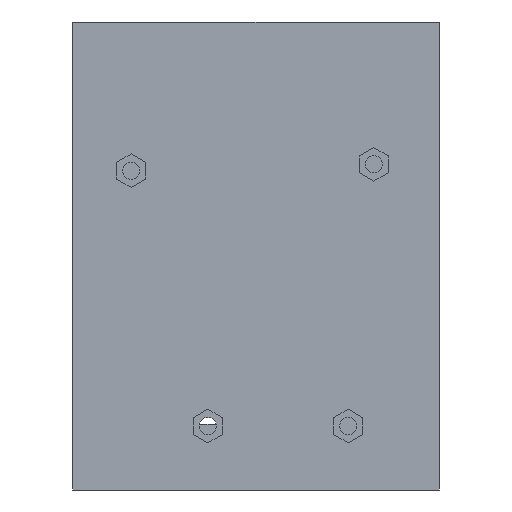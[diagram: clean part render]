
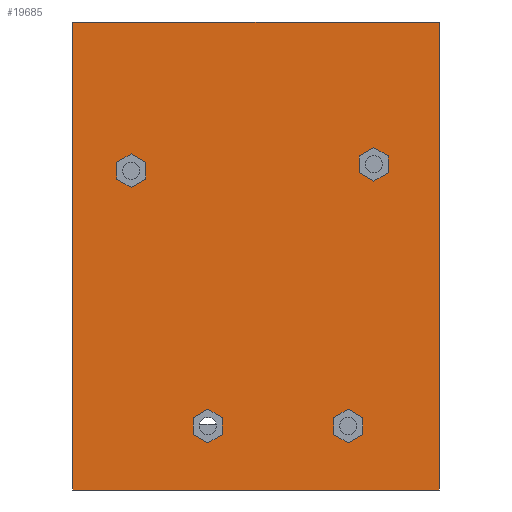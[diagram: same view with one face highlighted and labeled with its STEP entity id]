
A CAD part, front view. The second image highlights one B-rep face of the part: STEP entity #19685.
In plain terms, the highlighted planar face has unit normal (0, -1, 0).
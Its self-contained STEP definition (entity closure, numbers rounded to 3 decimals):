
#699=FACE_BOUND('',#3820,.T.);
#700=FACE_BOUND('',#3821,.T.);
#701=FACE_BOUND('',#3822,.T.);
#702=FACE_BOUND('',#3823,.T.);
#2159=PLANE('',#20747);
#2700=FACE_OUTER_BOUND('',#3819,.T.);
#3819=EDGE_LOOP('',(#14509,#14510,#14511,#14512));
#3820=EDGE_LOOP('',(#14513,#14514,#14515,#14516,#14517,#14518));
#3821=EDGE_LOOP('',(#14519,#14520,#14521,#14522,#14523,#14524));
#3822=EDGE_LOOP('',(#14525,#14526,#14527,#14528,#14529,#14530));
#3823=EDGE_LOOP('',(#14531,#14532,#14533,#14534,#14535,#14536));
#4876=LINE('',#24615,#6607);
#4881=LINE('',#24624,#6612);
#5080=LINE('',#26553,#6811);
#5081=LINE('',#26557,#6812);
#5085=LINE('',#26565,#6816);
#5088=LINE('',#26571,#6819);
#5091=LINE('',#26577,#6822);
#5094=LINE('',#26583,#6825);
#5097=LINE('',#26588,#6828);
#5099=LINE('',#26596,#6830);
#5103=LINE('',#26604,#6834);
#5106=LINE('',#26610,#6837);
#5109=LINE('',#26616,#6840);
#5112=LINE('',#26622,#6843);
#5115=LINE('',#26627,#6846);
#5117=LINE('',#26635,#6848);
#5121=LINE('',#26643,#6852);
#5124=LINE('',#26649,#6855);
#5127=LINE('',#26655,#6858);
#5130=LINE('',#26661,#6861);
#5133=LINE('',#26666,#6864);
#5140=LINE('',#26690,#6871);
#5144=LINE('',#26697,#6875);
#5147=LINE('',#26703,#6878);
#5150=LINE('',#26709,#6881);
#5153=LINE('',#26715,#6884);
#5155=LINE('',#26718,#6886);
#5158=LINE('',#26729,#6889);
#6607=VECTOR('',#21290,10.);
#6612=VECTOR('',#21297,1000.);
#6811=VECTOR('',#21622,1000.);
#6812=VECTOR('',#21625,10.);
#6816=VECTOR('',#21631,10.);
#6819=VECTOR('',#21636,10.);
#6822=VECTOR('',#21641,10.);
#6825=VECTOR('',#21646,10.);
#6828=VECTOR('',#21651,10.);
#6830=VECTOR('',#21659,10.);
#6834=VECTOR('',#21665,10.);
#6837=VECTOR('',#21670,10.);
#6840=VECTOR('',#21675,10.);
#6843=VECTOR('',#21680,10.);
#6846=VECTOR('',#21685,10.);
#6848=VECTOR('',#21693,10.);
#6852=VECTOR('',#21699,10.);
#6855=VECTOR('',#21704,10.);
#6858=VECTOR('',#21709,10.);
#6861=VECTOR('',#21714,10.);
#6864=VECTOR('',#21719,10.);
#6871=VECTOR('',#21744,10.);
#6875=VECTOR('',#21750,10.);
#6878=VECTOR('',#21755,10.);
#6881=VECTOR('',#21760,10.);
#6884=VECTOR('',#21765,10.);
#6886=VECTOR('',#21769,10.);
#6889=VECTOR('',#21784,10.);
#8460=VERTEX_POINT('',#24612);
#8461=VERTEX_POINT('',#24614);
#8464=VERTEX_POINT('',#24622);
#8608=VERTEX_POINT('',#26551);
#8609=VERTEX_POINT('',#26555);
#8610=VERTEX_POINT('',#26556);
#8613=VERTEX_POINT('',#26564);
#8615=VERTEX_POINT('',#26570);
#8617=VERTEX_POINT('',#26576);
#8619=VERTEX_POINT('',#26582);
#8622=VERTEX_POINT('',#26594);
#8623=VERTEX_POINT('',#26595);
#8626=VERTEX_POINT('',#26603);
#8628=VERTEX_POINT('',#26609);
#8630=VERTEX_POINT('',#26615);
#8632=VERTEX_POINT('',#26621);
#8635=VERTEX_POINT('',#26633);
#8636=VERTEX_POINT('',#26634);
#8639=VERTEX_POINT('',#26642);
#8641=VERTEX_POINT('',#26648);
#8643=VERTEX_POINT('',#26654);
#8645=VERTEX_POINT('',#26660);
#8653=VERTEX_POINT('',#26687);
#8654=VERTEX_POINT('',#26689);
#8656=VERTEX_POINT('',#26695);
#8658=VERTEX_POINT('',#26701);
#8660=VERTEX_POINT('',#26707);
#8662=VERTEX_POINT('',#26713);
#10516=EDGE_CURVE('',#8460,#8461,#4876,.T.);
#10521=EDGE_CURVE('',#8460,#8464,#4881,.T.);
#10810=EDGE_CURVE('',#8464,#8608,#5080,.T.);
#10811=EDGE_CURVE('',#8609,#8610,#5081,.T.);
#10815=EDGE_CURVE('',#8613,#8609,#5085,.T.);
#10818=EDGE_CURVE('',#8615,#8613,#5088,.T.);
#10821=EDGE_CURVE('',#8617,#8615,#5091,.T.);
#10824=EDGE_CURVE('',#8619,#8617,#5094,.T.);
#10827=EDGE_CURVE('',#8610,#8619,#5097,.T.);
#10830=EDGE_CURVE('',#8622,#8623,#5099,.T.);
#10834=EDGE_CURVE('',#8626,#8622,#5103,.T.);
#10837=EDGE_CURVE('',#8628,#8626,#5106,.T.);
#10840=EDGE_CURVE('',#8630,#8628,#5109,.T.);
#10843=EDGE_CURVE('',#8632,#8630,#5112,.T.);
#10846=EDGE_CURVE('',#8623,#8632,#5115,.T.);
#10849=EDGE_CURVE('',#8635,#8636,#5117,.T.);
#10853=EDGE_CURVE('',#8639,#8635,#5121,.T.);
#10856=EDGE_CURVE('',#8641,#8639,#5124,.T.);
#10859=EDGE_CURVE('',#8643,#8641,#5127,.T.);
#10862=EDGE_CURVE('',#8645,#8643,#5130,.T.);
#10865=EDGE_CURVE('',#8636,#8645,#5133,.T.);
#10876=EDGE_CURVE('',#8654,#8653,#5140,.T.);
#10880=EDGE_CURVE('',#8653,#8656,#5144,.T.);
#10883=EDGE_CURVE('',#8656,#8658,#5147,.T.);
#10886=EDGE_CURVE('',#8658,#8660,#5150,.T.);
#10889=EDGE_CURVE('',#8660,#8662,#5153,.T.);
#10891=EDGE_CURVE('',#8662,#8654,#5155,.T.);
#10896=EDGE_CURVE('',#8608,#8461,#5158,.T.);
#14509=ORIENTED_EDGE('',*,*,#10521,.T.);
#14510=ORIENTED_EDGE('',*,*,#10810,.T.);
#14511=ORIENTED_EDGE('',*,*,#10896,.T.);
#14512=ORIENTED_EDGE('',*,*,#10516,.F.);
#14513=ORIENTED_EDGE('',*,*,#10811,.T.);
#14514=ORIENTED_EDGE('',*,*,#10827,.T.);
#14515=ORIENTED_EDGE('',*,*,#10824,.T.);
#14516=ORIENTED_EDGE('',*,*,#10821,.T.);
#14517=ORIENTED_EDGE('',*,*,#10818,.T.);
#14518=ORIENTED_EDGE('',*,*,#10815,.T.);
#14519=ORIENTED_EDGE('',*,*,#10830,.T.);
#14520=ORIENTED_EDGE('',*,*,#10846,.T.);
#14521=ORIENTED_EDGE('',*,*,#10843,.T.);
#14522=ORIENTED_EDGE('',*,*,#10840,.T.);
#14523=ORIENTED_EDGE('',*,*,#10837,.T.);
#14524=ORIENTED_EDGE('',*,*,#10834,.T.);
#14525=ORIENTED_EDGE('',*,*,#10849,.T.);
#14526=ORIENTED_EDGE('',*,*,#10865,.T.);
#14527=ORIENTED_EDGE('',*,*,#10862,.T.);
#14528=ORIENTED_EDGE('',*,*,#10859,.T.);
#14529=ORIENTED_EDGE('',*,*,#10856,.T.);
#14530=ORIENTED_EDGE('',*,*,#10853,.T.);
#14531=ORIENTED_EDGE('',*,*,#10880,.T.);
#14532=ORIENTED_EDGE('',*,*,#10883,.T.);
#14533=ORIENTED_EDGE('',*,*,#10886,.T.);
#14534=ORIENTED_EDGE('',*,*,#10889,.T.);
#14535=ORIENTED_EDGE('',*,*,#10891,.T.);
#14536=ORIENTED_EDGE('',*,*,#10876,.T.);
#19685=ADVANCED_FACE('',(#2700,#699,#700,#701,#702),#2159,.T.);
#20747=AXIS2_PLACEMENT_3D('',#26730,#21785,#21786);
#21290=DIRECTION('',(1.,0.,0.));
#21297=DIRECTION('',(0.,0.,-1.));
#21622=DIRECTION('',(1.,0.,0.));
#21625=DIRECTION('',(0.,0.,-1.));
#21631=DIRECTION('',(0.866,0.,-0.5));
#21636=DIRECTION('',(0.866,0.,0.5));
#21641=DIRECTION('',(0.,0.,1.));
#21646=DIRECTION('',(-0.866,0.,0.5));
#21651=DIRECTION('',(-0.866,0.,-0.5));
#21659=DIRECTION('',(-0.866,0.,0.5));
#21665=DIRECTION('',(-0.866,0.,-0.5));
#21670=DIRECTION('',(0.,0.,-1.));
#21675=DIRECTION('',(0.866,0.,-0.5));
#21680=DIRECTION('',(0.866,0.,0.5));
#21685=DIRECTION('',(0.,0.,1.));
#21693=DIRECTION('',(0.866,0.,0.5));
#21699=DIRECTION('',(0.,0.,1.));
#21704=DIRECTION('',(-0.866,0.,0.5));
#21709=DIRECTION('',(-0.866,0.,-0.5));
#21714=DIRECTION('',(0.,0.,-1.));
#21719=DIRECTION('',(0.866,0.,-0.5));
#21744=DIRECTION('',(-0.865,0.,-0.502));
#21750=DIRECTION('',(-0.867,0.,0.498));
#21755=DIRECTION('',(-0.002,0.,1.));
#21760=DIRECTION('',(0.865,0.,0.502));
#21765=DIRECTION('',(0.867,0.,-0.498));
#21769=DIRECTION('',(0.002,0.,-1.));
#21784=DIRECTION('',(0.,0.,1.));
#21785=DIRECTION('center_axis',(0.,-1.,0.));
#21786=DIRECTION('ref_axis',(1.,0.,0.));
#24612=CARTESIAN_POINT('',(-62.38,-15.85,8.));
#24614=CARTESIAN_POINT('',(10.445,-15.85,8.));
#24615=CARTESIAN_POINT('',(0.,-15.85,8.));
#24622=CARTESIAN_POINT('',(-62.38,-15.85,-85.12));
#24624=CARTESIAN_POINT('',(-62.38,-15.85,0.));
#26551=CARTESIAN_POINT('',(10.445,-15.85,-85.12));
#26553=CARTESIAN_POINT('',(0.,-15.85,-85.12));
#26555=CARTESIAN_POINT('',(-4.72,-15.85,-70.716));
#26556=CARTESIAN_POINT('',(-4.72,-15.85,-74.064));
#26557=CARTESIAN_POINT('',(-4.72,-15.85,-35.358));
#26564=CARTESIAN_POINT('',(-7.62,-15.85,-69.041));
#26565=CARTESIAN_POINT('',(-19.71,-15.85,-62.061));
#26570=CARTESIAN_POINT('',(-10.52,-15.85,-70.716));
#26571=CARTESIAN_POINT('',(8.735,-15.85,-59.599));
#26576=CARTESIAN_POINT('',(-10.52,-15.85,-74.064));
#26577=CARTESIAN_POINT('',(-10.52,-15.85,-37.032));
#26582=CARTESIAN_POINT('',(-7.62,-15.85,-75.739));
#26583=CARTESIAN_POINT('',(-21.16,-15.85,-67.921));
#26588=CARTESIAN_POINT('',(13.085,-15.85,-63.784));
#26594=CARTESIAN_POINT('',(-35.56,-15.85,-75.739));
#26595=CARTESIAN_POINT('',(-38.46,-15.85,-74.064));
#26596=CARTESIAN_POINT('',(-38.623,-15.85,-73.97));
#26603=CARTESIAN_POINT('',(-32.66,-15.85,-74.064));
#26604=CARTESIAN_POINT('',(-4.377,-15.85,-57.735));
#26609=CARTESIAN_POINT('',(-32.66,-15.85,-70.716));
#26610=CARTESIAN_POINT('',(-32.66,-15.85,-35.358));
#26615=CARTESIAN_POINT('',(-35.56,-15.85,-69.041));
#26616=CARTESIAN_POINT('',(-37.173,-15.85,-68.11));
#26621=CARTESIAN_POINT('',(-38.46,-15.85,-70.716));
#26622=CARTESIAN_POINT('',(-8.727,-15.85,-53.549));
#26627=CARTESIAN_POINT('',(-38.46,-15.85,-37.032));
#26633=CARTESIAN_POINT('',(-53.7,-15.85,-19.916));
#26634=CARTESIAN_POINT('',(-50.8,-15.85,-18.241));
#26635=CARTESIAN_POINT('',(-29.251,-15.85,-5.8));
#26642=CARTESIAN_POINT('',(-53.7,-15.85,-23.264));
#26643=CARTESIAN_POINT('',(-53.7,-15.85,-11.632));
#26648=CARTESIAN_POINT('',(-50.8,-15.85,-24.939));
#26649=CARTESIAN_POINT('',(-37.149,-15.85,-32.82));
#26654=CARTESIAN_POINT('',(-47.9,-15.85,-23.264));
#26655=CARTESIAN_POINT('',(-24.901,-15.85,-9.986));
#26660=CARTESIAN_POINT('',(-47.9,-15.85,-19.916));
#26661=CARTESIAN_POINT('',(-47.9,-15.85,-9.958));
#26666=CARTESIAN_POINT('',(-35.699,-15.85,-26.96));
#26687=CARTESIAN_POINT('',(-2.532,-15.85,-23.668));
#26689=CARTESIAN_POINT('',(0.364,-15.85,-21.987));
#26690=CARTESIAN_POINT('',(3.643,-15.85,-20.083));
#26695=CARTESIAN_POINT('',(-5.436,-15.85,-22.001));
#26697=CARTESIAN_POINT('',(-7.391,-15.85,-20.879));
#26701=CARTESIAN_POINT('',(-5.444,-15.85,-18.652));
#26703=CARTESIAN_POINT('',(-5.463,-15.85,-10.933));
#26707=CARTESIAN_POINT('',(-2.548,-15.85,-16.971));
#26709=CARTESIAN_POINT('',(0.006,-15.85,-15.488));
#26713=CARTESIAN_POINT('',(0.356,-15.85,-18.638));
#26715=CARTESIAN_POINT('',(-5.955,-15.85,-15.015));
#26718=CARTESIAN_POINT('',(0.333,-15.85,-9.244));
#26729=CARTESIAN_POINT('',(10.445,-15.85,0.));
#26730=CARTESIAN_POINT('Origin',(0.,-15.85,0.));
